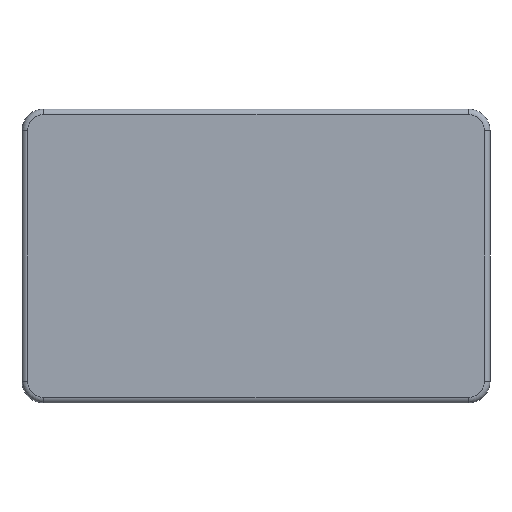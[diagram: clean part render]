
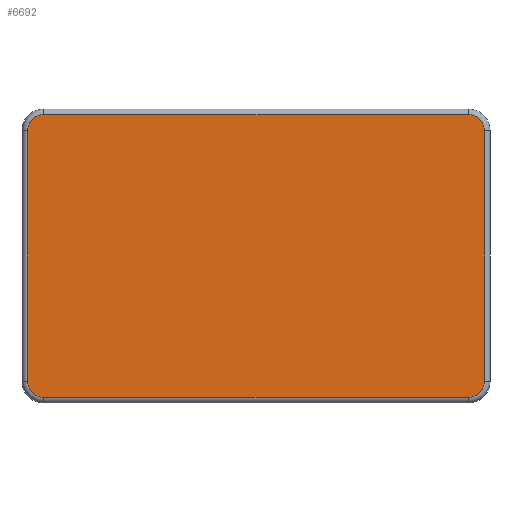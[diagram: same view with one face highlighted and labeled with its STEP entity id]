
A CAD part, front view. The second image highlights one B-rep face of the part: STEP entity #6692.
In plain terms, the highlighted planar face has unit normal (0, -1, 0).
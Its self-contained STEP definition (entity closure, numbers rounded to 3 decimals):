
#43=CIRCLE('',#6965,3.);
#47=CIRCLE('',#6971,3.);
#51=CIRCLE('',#6977,3.);
#53=CIRCLE('',#6981,3.);
#482=FACE_OUTER_BOUND('',#825,.T.);
#825=EDGE_LOOP('',(#5792,#5793,#5794,#5795,#5796,#5797,#5798,#5799));
#1703=LINE('',#11176,#2438);
#1704=LINE('',#11187,#2439);
#1706=LINE('',#11198,#2441);
#1708=LINE('',#11207,#2443);
#2438=VECTOR('',#8237,10.);
#2439=VECTOR('',#8250,10.);
#2441=VECTOR('',#8264,10.);
#2443=VECTOR('',#8276,10.);
#3042=VERTEX_POINT('',#11172);
#3043=VERTEX_POINT('',#11174);
#3045=VERTEX_POINT('',#11179);
#3047=VERTEX_POINT('',#11185);
#3049=VERTEX_POINT('',#11191);
#3050=VERTEX_POINT('',#11196);
#3051=VERTEX_POINT('',#11201);
#3052=VERTEX_POINT('',#11205);
#3949=EDGE_CURVE('',#3043,#3042,#1703,.T.);
#3951=EDGE_CURVE('',#3045,#3043,#43,.T.);
#3954=EDGE_CURVE('',#3047,#3045,#1704,.T.);
#3957=EDGE_CURVE('',#3049,#3047,#47,.T.);
#3960=EDGE_CURVE('',#3050,#3049,#1706,.T.);
#3963=EDGE_CURVE('',#3051,#3050,#51,.T.);
#3965=EDGE_CURVE('',#3052,#3051,#1708,.T.);
#3966=EDGE_CURVE('',#3042,#3052,#53,.T.);
#5792=ORIENTED_EDGE('',*,*,#3949,.F.);
#5793=ORIENTED_EDGE('',*,*,#3951,.F.);
#5794=ORIENTED_EDGE('',*,*,#3954,.F.);
#5795=ORIENTED_EDGE('',*,*,#3957,.F.);
#5796=ORIENTED_EDGE('',*,*,#3960,.F.);
#5797=ORIENTED_EDGE('',*,*,#3963,.F.);
#5798=ORIENTED_EDGE('',*,*,#3965,.F.);
#5799=ORIENTED_EDGE('',*,*,#3966,.F.);
#6035=PLANE('',#6985);
#6692=ADVANCED_FACE('',(#482),#6035,.F.);
#6965=AXIS2_PLACEMENT_3D('',#11181,#8242,#8243);
#6971=AXIS2_PLACEMENT_3D('',#11193,#8256,#8257);
#6977=AXIS2_PLACEMENT_3D('',#11203,#8270,#8271);
#6981=AXIS2_PLACEMENT_3D('',#11209,#8279,#8280);
#6985=AXIS2_PLACEMENT_3D('',#11216,#8290,#8291);
#8237=DIRECTION('',(-1.,0.,0.));
#8242=DIRECTION('center_axis',(0.,1.,0.));
#8243=DIRECTION('ref_axis',(0.707,0.,-0.707));
#8250=DIRECTION('',(0.,0.,-1.));
#8256=DIRECTION('center_axis',(0.,1.,0.));
#8257=DIRECTION('ref_axis',(0.707,0.,0.707));
#8264=DIRECTION('',(1.,0.,0.));
#8270=DIRECTION('center_axis',(0.,1.,0.));
#8271=DIRECTION('ref_axis',(-0.707,0.,0.707));
#8276=DIRECTION('',(0.,0.,1.));
#8279=DIRECTION('center_axis',(0.,1.,0.));
#8280=DIRECTION('ref_axis',(-0.707,0.,-0.707));
#8290=DIRECTION('center_axis',(0.,1.,0.));
#8291=DIRECTION('ref_axis',(0.,0.,1.));
#11172=CARTESIAN_POINT('',(-82.,0.,-53.));
#11174=CARTESIAN_POINT('',(-4.,0.,-53.));
#11176=CARTESIAN_POINT('',(-21.5,0.,-53.));
#11179=CARTESIAN_POINT('',(-1.,0.,-50.));
#11181=CARTESIAN_POINT('Origin',(-4.,0.,-50.));
#11185=CARTESIAN_POINT('',(-1.,0.,-4.));
#11187=CARTESIAN_POINT('',(-1.,0.,-13.5));
#11191=CARTESIAN_POINT('',(-4.,0.,-1.));
#11193=CARTESIAN_POINT('Origin',(-4.,0.,-4.));
#11196=CARTESIAN_POINT('',(-82.,0.,-1.));
#11198=CARTESIAN_POINT('',(-64.5,0.,-1.));
#11201=CARTESIAN_POINT('',(-85.,0.,-4.));
#11203=CARTESIAN_POINT('Origin',(-82.,0.,-4.));
#11205=CARTESIAN_POINT('',(-85.,0.,-50.));
#11207=CARTESIAN_POINT('',(-85.,0.,-40.5));
#11209=CARTESIAN_POINT('Origin',(-82.,0.,-50.));
#11216=CARTESIAN_POINT('Origin',(-43.,0.,-27.));
